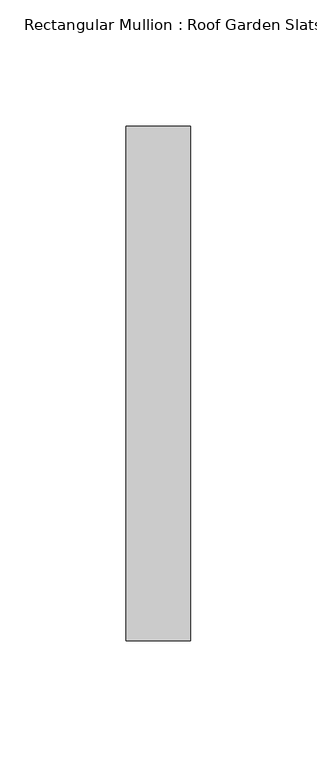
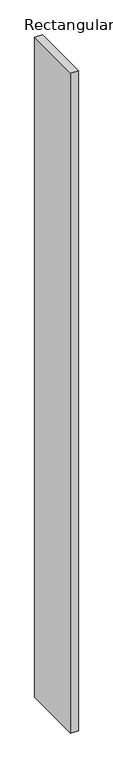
"""IFC4 building model written with IfcOpenShell, lengths in millimetres: member geometry, Rectangular Mullion : Roof Garden Slats."""

from ifc_helpers import new_model, si_unit, frame, origin, place, context, project, spatial, polyline, outline, extrude, source, transform, mapped, element, save


def rectangular_mullion_roof_garden_slats_cdbbf78d(model_context):
    return source(origin(), model_context, "Body", "SweptSolid", [
        extrude(outline(polyline([(12.7, 139.7), (12.7, -63.5), (-12.7, -63.5), (-12.7, 139.7), (12.7, 139.7)])), frame((0.0, 0.0, -2281.1238221), z_axis=(0.0, 0.0, 1.0), x_axis=(1.0, 0.0, 0.0)), (0.0, 0.0, 1.0), 2281.1238221),
    ])


if __name__ == "__main__":
    model = new_model("IFC4")
    model_context = context("Model", 3, world=origin())
    ifc_project = project(units=[si_unit("LENGTHUNIT", "METRE", prefix="MILLI")], contexts=[model_context])
    site = spatial("IfcSite", under=ifc_project)
    building = spatial("IfcBuilding", under=site)
    placement = place(None, origin())
    rectangular_mullion_roof_garden_slats_shape = rectangular_mullion_roof_garden_slats_cdbbf78d(model_context)
    element("IfcMember", 1, ObjectType="Rectangular Mullion : Roof Garden Slats", at=placement, inside=building, context=model_context, shape_type="MappedRepresentation", body=[
        mapped(rectangular_mullion_roof_garden_slats_shape, transform((0.0, 0.0, 0.0), x_axis=(1.0, 0.0, 0.0), y_axis=(0.0, 1.0, 0.0), z_axis=(0.0, 0.0, 1.0))),
    ])
    save(model, "model.ifc")
